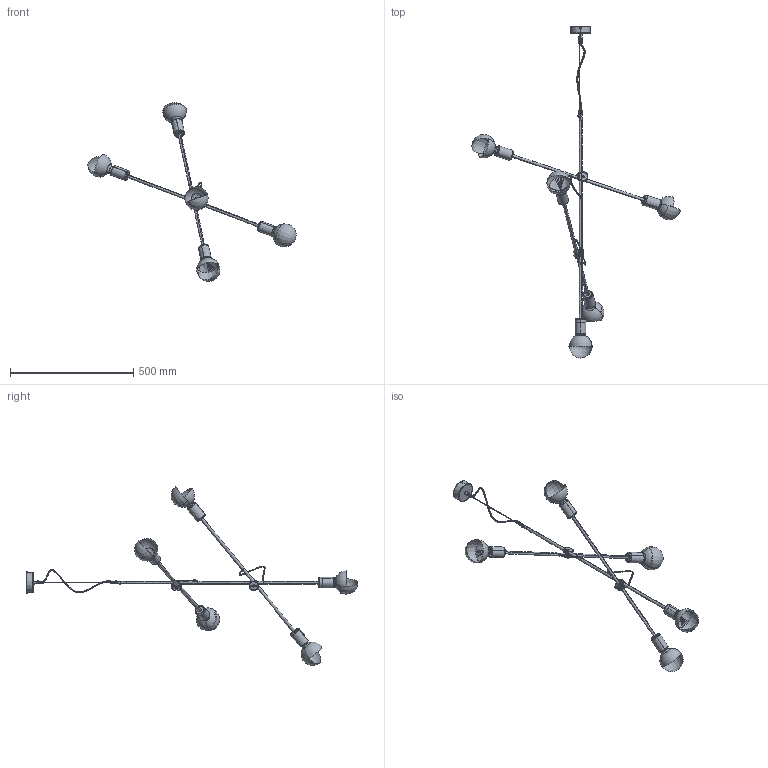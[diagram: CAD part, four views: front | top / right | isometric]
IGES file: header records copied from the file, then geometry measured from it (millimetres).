
Start section: SolidWorks IGES file using analytic representation for surfaces
Global section: file name: E:\3D lampy\Sticks\6270\Sticks_6270.IGS; native system: SolidWorks 2016; preprocessor: SolidWorks 2016; author: Asia; date: 160905.094213; units: millimetre
Bounding box: 843.59 x 1345.14 x 724.6 mm (x, y, z)
Surface area: 401652.5 mm2 (no closed solid volume)
Topology: 0 solids, 0 shells, 1004 faces, 14634 edges, 14603 vertices
Faces by surface type: bspline 522, revolution 482
